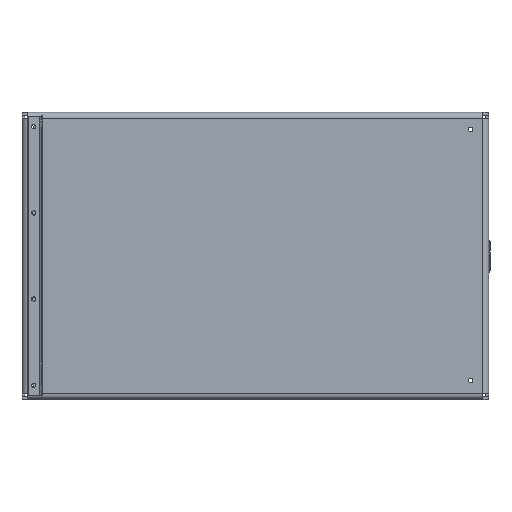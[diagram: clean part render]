
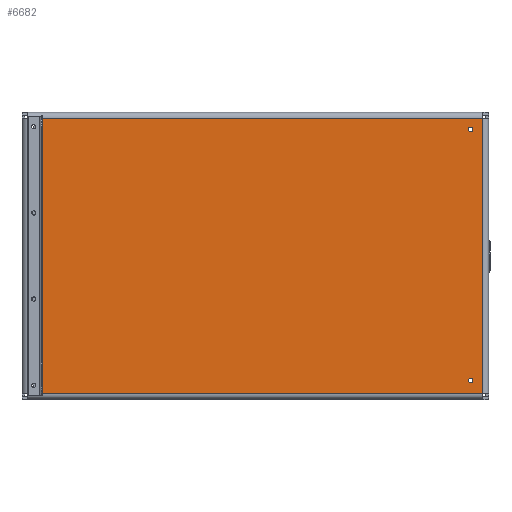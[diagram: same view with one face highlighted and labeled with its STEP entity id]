
A CAD part, top view. The second image highlights one B-rep face of the part: STEP entity #6682.
In plain terms, the highlighted planar face has unit normal (0, 0, 1) as drawn and (0, 0, -1) by its records, which use the part's own axes.
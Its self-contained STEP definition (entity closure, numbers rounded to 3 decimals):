
#226=PLANE('',#7487);
#699=LINE('',#11269,#1266);
#706=LINE('',#11290,#1273);
#710=LINE('',#11307,#1277);
#714=LINE('',#11321,#1281);
#1266=VECTOR('',#9260,10.);
#1273=VECTOR('',#9287,10.);
#1277=VECTOR('',#9313,10.);
#1281=VECTOR('',#9335,10.);
#1475=FACE_BOUND('',#2249,.T.);
#1476=FACE_BOUND('',#2250,.T.);
#1477=FACE_BOUND('',#2251,.T.);
#1478=FACE_BOUND('',#2252,.T.);
#1479=FACE_BOUND('',#2253,.T.);
#1480=FACE_BOUND('',#2254,.T.);
#1808=FACE_OUTER_BOUND('',#2248,.T.);
#2248=EDGE_LOOP('',(#5864,#5865,#5866,#5867));
#2249=EDGE_LOOP('',(#5868));
#2250=EDGE_LOOP('',(#5869));
#2251=EDGE_LOOP('',(#5870));
#2252=EDGE_LOOP('',(#5871));
#2253=EDGE_LOOP('',(#5872));
#2254=EDGE_LOOP('',(#5873));
#2647=CIRCLE('',#7428,6.25);
#2649=CIRCLE('',#7431,6.25);
#2651=CIRCLE('',#7434,6.25);
#2653=CIRCLE('',#7437,6.25);
#2655=CIRCLE('',#7440,6.25);
#2657=CIRCLE('',#7443,6.25);
#3221=VERTEX_POINT('',#11236);
#3223=VERTEX_POINT('',#11241);
#3225=VERTEX_POINT('',#11246);
#3227=VERTEX_POINT('',#11251);
#3229=VERTEX_POINT('',#11256);
#3231=VERTEX_POINT('',#11261);
#3233=VERTEX_POINT('',#11266);
#3234=VERTEX_POINT('',#11268);
#3238=VERTEX_POINT('',#11289);
#3240=VERTEX_POINT('',#11306);
#4089=EDGE_CURVE('',#3221,#3221,#2647,.T.);
#4091=EDGE_CURVE('',#3223,#3223,#2649,.T.);
#4093=EDGE_CURVE('',#3225,#3225,#2651,.T.);
#4095=EDGE_CURVE('',#3227,#3227,#2653,.T.);
#4097=EDGE_CURVE('',#3229,#3229,#2655,.T.);
#4099=EDGE_CURVE('',#3231,#3231,#2657,.T.);
#4102=EDGE_CURVE('',#3234,#3233,#699,.T.);
#4113=EDGE_CURVE('',#3238,#3234,#706,.T.);
#4121=EDGE_CURVE('',#3240,#3238,#710,.T.);
#4129=EDGE_CURVE('',#3233,#3240,#714,.T.);
#5864=ORIENTED_EDGE('',*,*,#4102,.T.);
#5865=ORIENTED_EDGE('',*,*,#4129,.T.);
#5866=ORIENTED_EDGE('',*,*,#4121,.T.);
#5867=ORIENTED_EDGE('',*,*,#4113,.T.);
#5868=ORIENTED_EDGE('',*,*,#4089,.T.);
#5869=ORIENTED_EDGE('',*,*,#4091,.T.);
#5870=ORIENTED_EDGE('',*,*,#4093,.T.);
#5871=ORIENTED_EDGE('',*,*,#4095,.T.);
#5872=ORIENTED_EDGE('',*,*,#4097,.T.);
#5873=ORIENTED_EDGE('',*,*,#4099,.T.);
#6682=ADVANCED_FACE('',(#1808,#1475,#1476,#1477,#1478,#1479,#1480),#226,
 .F.);
#7428=AXIS2_PLACEMENT_3D('',#11237,#9222,#9223);
#7431=AXIS2_PLACEMENT_3D('',#11242,#9228,#9229);
#7434=AXIS2_PLACEMENT_3D('',#11247,#9234,#9235);
#7437=AXIS2_PLACEMENT_3D('',#11252,#9240,#9241);
#7440=AXIS2_PLACEMENT_3D('',#11257,#9246,#9247);
#7443=AXIS2_PLACEMENT_3D('',#11262,#9252,#9253);
#7487=AXIS2_PLACEMENT_3D('',#11338,#9361,#9362);
#9222=DIRECTION('center_axis',(0.,0.,1.));
#9223=DIRECTION('ref_axis',(1.,0.,0.));
#9228=DIRECTION('center_axis',(0.,0.,1.));
#9229=DIRECTION('ref_axis',(1.,0.,0.));
#9234=DIRECTION('center_axis',(0.,0.,1.));
#9235=DIRECTION('ref_axis',(1.,0.,0.));
#9240=DIRECTION('center_axis',(0.,0.,1.));
#9241=DIRECTION('ref_axis',(1.,0.,0.));
#9246=DIRECTION('center_axis',(0.,0.,1.));
#9247=DIRECTION('ref_axis',(1.,0.,0.));
#9252=DIRECTION('center_axis',(0.,0.,1.));
#9253=DIRECTION('ref_axis',(1.,0.,0.));
#9260=DIRECTION('',(0.,-1.,0.));
#9287=DIRECTION('',(1.,0.,0.));
#9313=DIRECTION('',(0.,1.,0.));
#9335=DIRECTION('',(-1.,0.,0.));
#9361=DIRECTION('center_axis',(0.,0.,1.));
#9362=DIRECTION('ref_axis',(1.,0.,0.));
#11236=CARTESIAN_POINT('',(1243.75,747.,0.));
#11237=CARTESIAN_POINT('Origin',(1250.,747.,0.));
#11241=CARTESIAN_POINT('',(1243.75,47.,0.));
#11242=CARTESIAN_POINT('Origin',(1250.,47.,0.));
#11246=CARTESIAN_POINT('',(26.75,40.,0.));
#11247=CARTESIAN_POINT('Origin',(33.,40.,0.));
#11251=CARTESIAN_POINT('',(26.75,280.,0.));
#11252=CARTESIAN_POINT('Origin',(33.,280.,0.));
#11256=CARTESIAN_POINT('',(26.75,520.,0.));
#11257=CARTESIAN_POINT('Origin',(33.,520.,0.));
#11261=CARTESIAN_POINT('',(26.75,760.,0.));
#11262=CARTESIAN_POINT('Origin',(33.,760.,0.));
#11266=CARTESIAN_POINT('',(1284.,16.,0.));
#11268=CARTESIAN_POINT('',(1284.,784.,0.));
#11269=CARTESIAN_POINT('',(1284.,592.,0.));
#11289=CARTESIAN_POINT('',(16.,784.,0.));
#11290=CARTESIAN_POINT('',(333.,784.,0.));
#11306=CARTESIAN_POINT('',(16.,16.,0.));
#11307=CARTESIAN_POINT('',(16.,208.,0.));
#11321=CARTESIAN_POINT('',(967.,16.,0.));
#11338=CARTESIAN_POINT('Origin',(650.,400.,0.));
